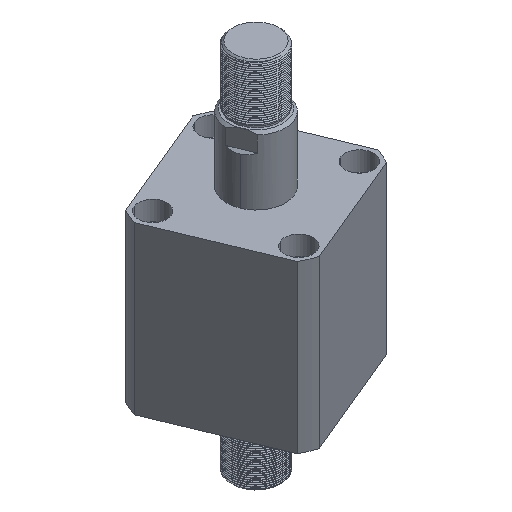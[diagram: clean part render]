
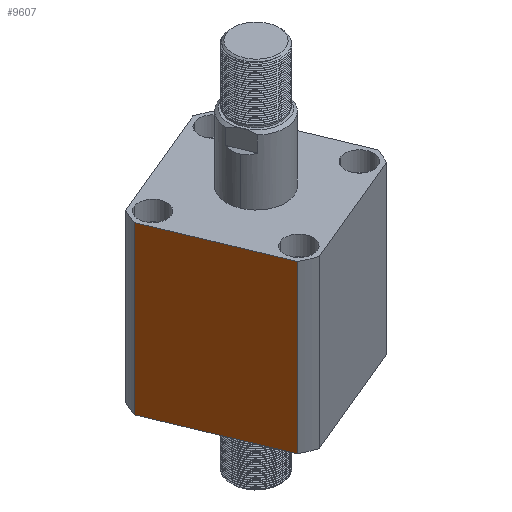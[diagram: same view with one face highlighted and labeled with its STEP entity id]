
A CAD part, isometric view. The second image highlights one B-rep face of the part: STEP entity #9607.
In plain terms, the highlighted planar face has unit normal (-0.924, -0.383, 0) as drawn and (0, 1, 0) by its records, which use the part's own axes.
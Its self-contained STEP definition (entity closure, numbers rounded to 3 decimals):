
#310 = VERTEX_POINT ( 'NONE', #12285 ) ;
#311 = EDGE_CURVE ( 'NONE', #10205, #3712, #1204, .T. ) ;
#645 = CARTESIAN_POINT ( 'NONE',  ( 47.971, 57., -172. ) ) ;
#764 = ORIENTED_EDGE ( 'NONE', *, *, #8034, .F. ) ;
#1152 = EDGE_CURVE ( 'NONE', #310, #10205, #22382, .T. ) ;
#1204 = LINE ( 'NONE', #17262, #26133 ) ;
#2182 = DIRECTION ( 'NONE',  ( 0., -1., 0. ) ) ;
#2226 = CARTESIAN_POINT ( 'NONE',  ( -57., 57., 0. ) ) ;
#2763 = DIRECTION ( 'NONE',  ( 0., 0., 1. ) ) ;
#3712 = VERTEX_POINT ( 'NONE', #12505 ) ;
#7337 = ORIENTED_EDGE ( 'NONE', *, *, #311, .F. ) ;
#8034 = EDGE_CURVE ( 'NONE', #3712, #25747, #16980, .T. ) ;
#8057 = AXIS2_PLACEMENT_3D ( 'NONE', #22251, #2182, #16300 ) ;
#8269 = DIRECTION ( 'NONE',  ( -1., 0., 0. ) ) ;
#9607 = ADVANCED_FACE ( 'NONE', ( #14395 ), #14242, .F. ) ;
#10000 = DIRECTION ( 'NONE',  ( -1., 0., 0. ) ) ;
#10205 = VERTEX_POINT ( 'NONE', #13192 ) ;
#10801 = ORIENTED_EDGE ( 'NONE', *, *, #1152, .F. ) ;
#10924 = LINE ( 'NONE', #2226, #15684 ) ;
#12285 = CARTESIAN_POINT ( 'NONE',  ( 47.971, 57., 0. ) ) ;
#12505 = CARTESIAN_POINT ( 'NONE',  ( -47.971, 57., 128. ) ) ;
#13192 = CARTESIAN_POINT ( 'NONE',  ( 47.971, 57., 128. ) ) ;
#14242 = PLANE ( 'NONE',  #8057 ) ;
#14395 = FACE_OUTER_BOUND ( 'NONE', #22141, .T. ) ;
#15684 = VECTOR ( 'NONE', #8269, 1000. ) ;
#16300 = DIRECTION ( 'NONE',  ( 0., 0., -1. ) ) ;
#16370 = EDGE_CURVE ( 'NONE', #310, #25747, #10924, .T. ) ;
#16980 = LINE ( 'NONE', #22976, #22378 ) ;
#17262 = CARTESIAN_POINT ( 'NONE',  ( -57., 57., 128. ) ) ;
#18815 = CARTESIAN_POINT ( 'NONE',  ( -47.971, 57., 0. ) ) ;
#22141 = EDGE_LOOP ( 'NONE', ( #10801, #22245, #764, #7337 ) ) ;
#22245 = ORIENTED_EDGE ( 'NONE', *, *, #16370, .T. ) ;
#22251 = CARTESIAN_POINT ( 'NONE',  ( -57., 57., 128. ) ) ;
#22378 = VECTOR ( 'NONE', #23063, 1000. ) ;
#22382 = LINE ( 'NONE', #645, #25203 ) ;
#22976 = CARTESIAN_POINT ( 'NONE',  ( -47.971, 57., -172. ) ) ;
#23063 = DIRECTION ( 'NONE',  ( 0., 0., -1. ) ) ;
#25203 = VECTOR ( 'NONE', #2763, 1000. ) ;
#25747 = VERTEX_POINT ( 'NONE', #18815 ) ;
#26133 = VECTOR ( 'NONE', #10000, 1000. ) ;
